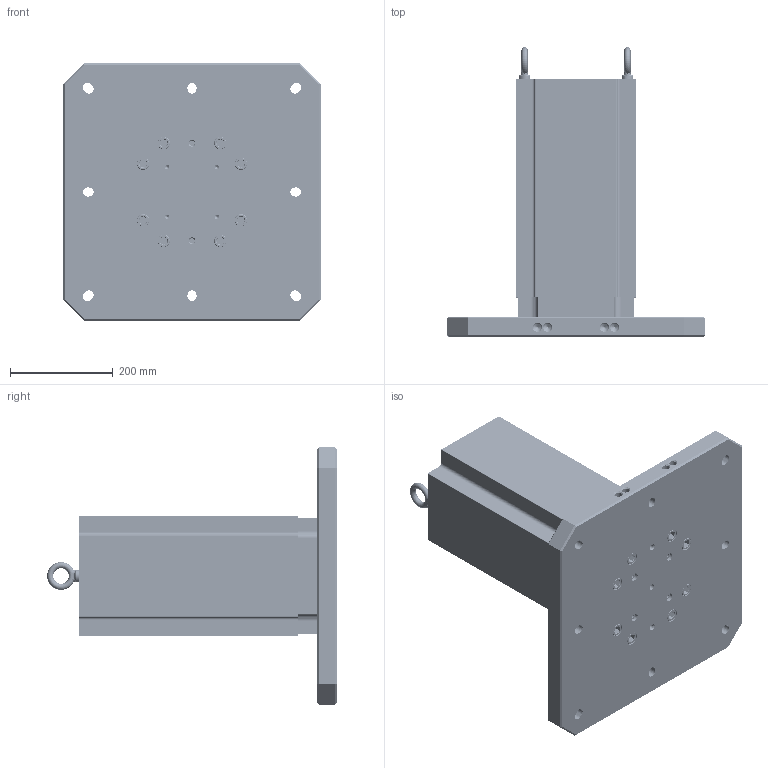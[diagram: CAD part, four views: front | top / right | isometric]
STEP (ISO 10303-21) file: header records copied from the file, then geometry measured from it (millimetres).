
FILE_DESCRIPTION (( 'STEP AP214' ), '1' );
FILE_NAME ('MTA-5004U-500.STEP', '2025-06-24T05:59:37', ( '' ), ( '' ), 'SwSTEP 2.0', 'SolidWorks 2024', '' );
FILE_SCHEMA (( 'AUTOMOTIVE_DESIGN' ));
Length unit declared in the file: millimetre
Products named in the file (8): MTA-5004U-500; 156x2.OR  -  O-RING, 156mm ID X 2mm THK, BUNA-N, 70A; HW.76172; MT-4462A_MT-4600A; HW.76452_dev_91290A835; M12X24MM.EB (McM 3040T15)_3040T15; RL96-14TC; RL96-5004BUA
Assembly tree (18 placements, depth 2):
  MTA-5004U-500
    RL96-5004BUA
    MT-4462A_MT-4600A
    156x2.OR  -  O-RING, 156mm ID X 2mm THK, BUNA-N, 70A
    RL96-14TC
    HW.76172  x4
    M12X24MM.EB (McM 3040T15)_3040T15  x2
    HW.76452_dev_91290A835  x8
Bounding box: 500 x 562.9 x 500 mm (x, y, z)
Volume: 24358805.2 mm3; surface area: 1472476 mm2
Topology: 18 solids, 18 shells, 2067 faces, 5534 edges, 3527 vertices
Faces by surface type: cylinder 1388, plane 317, cone 290, bspline 42, torus 30
Entity records: 33506 total; most frequent: CARTESIAN_POINT 13928, ORIENTED_EDGE 4182, DIRECTION 3969, EDGE_CURVE 2091, AXIS2_PLACEMENT_3D 1491, VERTEX_POINT 1332, LINE 987, VECTOR 987
